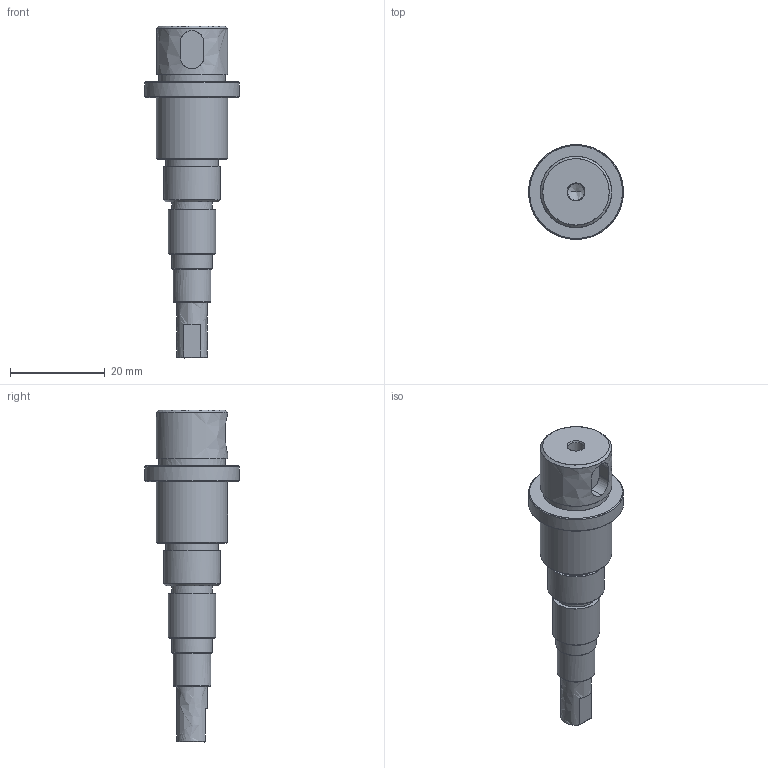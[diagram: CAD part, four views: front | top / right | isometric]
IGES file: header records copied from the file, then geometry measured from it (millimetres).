
Start section: Iges File created by ES
Global section: native system: ES; preprocessor: IGES.4B00; organization: JingDiao; units: millimetre
Bounding box: 20 x 20 x 70 mm (x, y, z)
Surface area: 3418.3 mm2 (no closed solid volume)
Topology: 0 solids, 0 shells, 45 faces, 377 edges, 360 vertices
Faces by surface type: bspline 45
